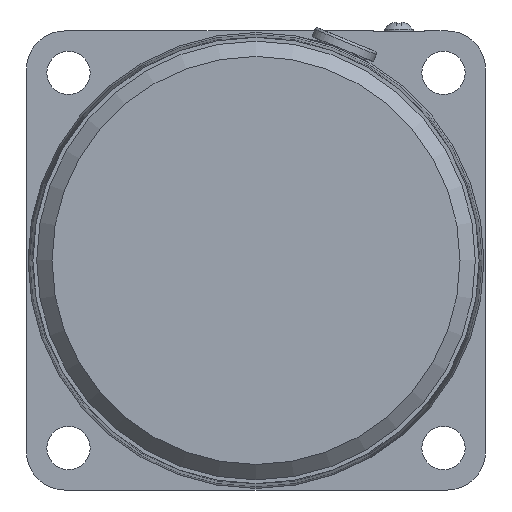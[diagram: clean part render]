
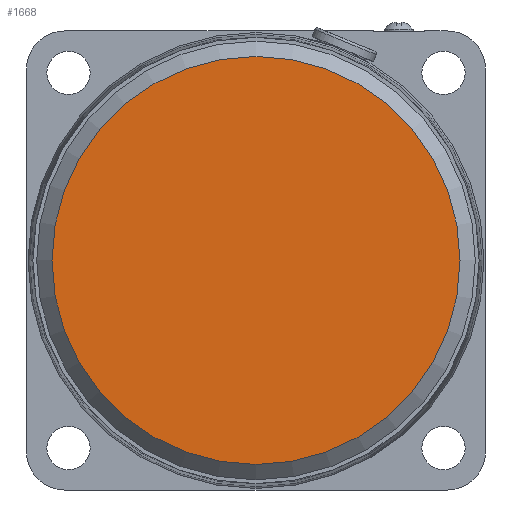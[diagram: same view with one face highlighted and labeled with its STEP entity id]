
A CAD part, left-side view. The second image highlights one B-rep face of the part: STEP entity #1668.
In plain terms, the highlighted planar face has unit normal (-1, 0, 0).
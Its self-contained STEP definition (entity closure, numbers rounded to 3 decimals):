
#170=CIRCLE('',#1824,40.);
#265=FACE_OUTER_BOUND('',#391,.T.);
#391=EDGE_LOOP('',(#1431));
#785=VERTEX_POINT('',#2872);
#999=EDGE_CURVE('',#785,#785,#170,.T.);
#1431=ORIENTED_EDGE('',*,*,#999,.F.);
#1487=PLANE('',#1834);
#1668=ADVANCED_FACE('',(#265),#1487,.T.);
#1824=AXIS2_PLACEMENT_3D('',#2873,#2261,#2262);
#1834=AXIS2_PLACEMENT_3D('',#2887,#2281,#2282);
#2261=DIRECTION('center_axis',(1.,0.,0.));
#2262=DIRECTION('ref_axis',(0.,1.,0.));
#2281=DIRECTION('center_axis',(-1.,0.,0.));
#2282=DIRECTION('ref_axis',(0.,0.,1.));
#2872=CARTESIAN_POINT('',(0.,40.,0.));
#2873=CARTESIAN_POINT('Origin',(0.,0.,
0.));
#2887=CARTESIAN_POINT('Origin',(0.,20.,
0.));
